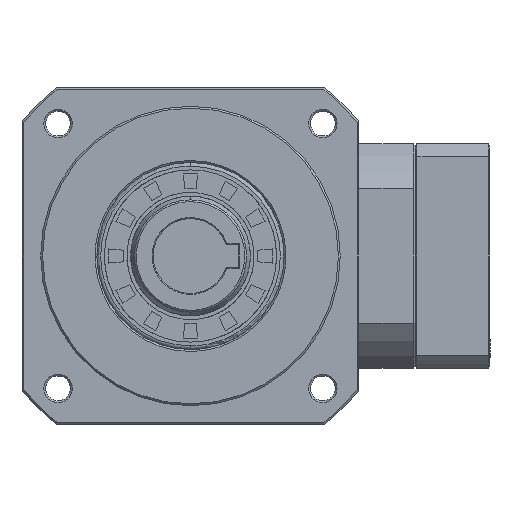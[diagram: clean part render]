
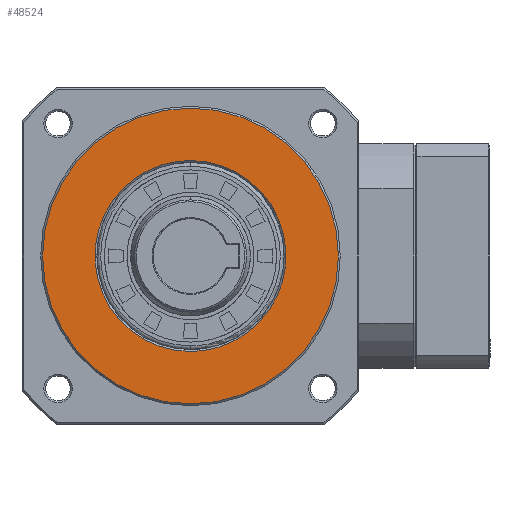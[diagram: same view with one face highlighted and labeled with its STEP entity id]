
A CAD part, left-side view. The second image highlights one B-rep face of the part: STEP entity #48524.
In plain terms, the highlighted planar face has unit normal (1, 0, 0).
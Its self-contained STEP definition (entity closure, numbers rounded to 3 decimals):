
#2378 = VERTEX_POINT ( 'NONE', #82325 ) ;
#3166 = CARTESIAN_POINT ( 'NONE',  ( 0., -6.612, -24.684 ) ) ;
#4488 = ORIENTED_EDGE ( 'NONE', *, *, #74390, .T. ) ;
#5657 = CARTESIAN_POINT ( 'NONE',  ( 0., 12.779, 22.13 ) ) ;
#5964 = CARTESIAN_POINT ( 'NONE',  ( 0., 11.3, 22.92 ) ) ;
#6265 = CARTESIAN_POINT ( 'NONE',  ( 0., 8.216, 24.198 ) ) ;
#6555 = CARTESIAN_POINT ( 'NONE',  ( 0., 24.198, 8.216 ) ) ;
#6791 = CIRCLE ( 'NONE', #51060, 39.5 ) ;
#6860 = CARTESIAN_POINT ( 'NONE',  ( 0., 0., 25.5 ) ) ;
#7554 = DIRECTION ( 'NONE',  ( 1., 0., 0. ) ) ;
#9034 = CARTESIAN_POINT ( 'NONE',  ( 0., -22.13, 12.779 ) ) ;
#10297 = CARTESIAN_POINT ( 'NONE',  ( 0., -20.275, 15.555 ) ) ;
#10496 = DIRECTION ( 'NONE',  ( 1., 0., 0. ) ) ;
#11295 = CARTESIAN_POINT ( 'NONE',  ( 0., 15.555, -20.275 ) ) ;
#13111 = CARTESIAN_POINT ( 'NONE',  ( 0., 20.275, 15.555 ) ) ;
#13402 = CARTESIAN_POINT ( 'NONE',  ( 0., 25.5, 1.669 ) ) ;
#16159 = CARTESIAN_POINT ( 'NONE',  ( 0., -24.684, -6.612 ) ) ;
#16444 = CARTESIAN_POINT ( 'NONE',  ( 0., -24.684, 6.612 ) ) ;
#17393 = CARTESIAN_POINT ( 'NONE',  ( 0., -25.5, -1.669 ) ) ;
#18395 = CARTESIAN_POINT ( 'NONE',  ( 0., 1.669, -25.5 ) ) ;
#18617 = VERTEX_POINT ( 'NONE', #58382 ) ;
#19589 = AXIS2_PLACEMENT_3D ( 'NONE', #56819, #7554, #48781 ) ;
#20190 = CARTESIAN_POINT ( 'NONE',  ( 0., 22.92, -11.3 ) ) ;
#23545 = CARTESIAN_POINT ( 'NONE',  ( 0., -20.275, -15.555 ) ) ;
#23852 = CARTESIAN_POINT ( 'NONE',  ( 0., -11.3, 22.92 ) ) ;
#24459 = CARTESIAN_POINT ( 'NONE',  ( 0., -24.198, -8.216 ) ) ;
#27882 = CARTESIAN_POINT ( 'NONE',  ( 0., 22.13, 12.779 ) ) ;
#30629 = CARTESIAN_POINT ( 'NONE',  ( 0., -12.779, 22.13 ) ) ;
#31249 = CARTESIAN_POINT ( 'NONE',  ( 0., 0., 25.5 ) ) ;
#31563 = CARTESIAN_POINT ( 'NONE',  ( 0., -1.669, 25.5 ) ) ;
#33176 = CARTESIAN_POINT ( 'NONE',  ( 0., 19.211, -16.851 ) ) ;
#33798 = CARTESIAN_POINT ( 'NONE',  ( 0., 1.669, 25.5 ) ) ;
#33825 = EDGE_LOOP ( 'NONE', ( #45915, #4488 ) ) ;
#37186 = CARTESIAN_POINT ( 'NONE',  ( 0., -24.198, 8.216 ) ) ;
#37489 = CARTESIAN_POINT ( 'NONE',  ( 0., -22.13, -12.779 ) ) ;
#38160 = CARTESIAN_POINT ( 'NONE',  ( 0., 6.612, -24.684 ) ) ;
#38416 = CARTESIAN_POINT ( 'NONE',  ( 0., -15.555, 20.275 ) ) ;
#38919 = DIRECTION ( 'NONE',  ( 0., 0., -1. ) ) ;
#41010 = DIRECTION ( 'NONE',  ( 0., 0., -1. ) ) ;
#41562 = CARTESIAN_POINT ( 'NONE',  ( 0., 24.684, 6.612 ) ) ;
#41938 = PLANE ( 'NONE',  #19589 ) ;
#42166 = CARTESIAN_POINT ( 'NONE',  ( 0., 15.555, 20.275 ) ) ;
#42388 = VERTEX_POINT ( 'NONE', #42900 ) ;
#42900 = CARTESIAN_POINT ( 'NONE',  ( 0., 0., -39.5 ) ) ;
#44327 = CARTESIAN_POINT ( 'NONE',  ( 0., -11.3, -22.92 ) ) ;
#44642 = CARTESIAN_POINT ( 'NONE',  ( 0., -16.851, 19.211 ) ) ;
#44942 = CARTESIAN_POINT ( 'NONE',  ( 0., -15.555, -20.275 ) ) ;
#45249 = CARTESIAN_POINT ( 'NONE',  ( 0., -8.216, -24.198 ) ) ;
#45563 = CARTESIAN_POINT ( 'NONE',  ( 0., -12.779, -22.13 ) ) ;
#45915 = ORIENTED_EDGE ( 'NONE', *, *, #89020, .T. ) ;
#46576 = CARTESIAN_POINT ( 'NONE',  ( 0., 11.3, -22.92 ) ) ;
#46639 = FACE_OUTER_BOUND ( 'NONE', #33825, .T. ) ;
#48172 = CARTESIAN_POINT ( 'NONE',  ( 0., 0., 0. ) ) ;
#48524 = ADVANCED_FACE ( 'NONE', ( #59868, #46639 ), #41938, .T. ) ;
#48781 = DIRECTION ( 'NONE',  ( 0., 0., -1. ) ) ;
#49691 = AXIS2_PLACEMENT_3D ( 'NONE', #52908, #10496, #38919 ) ;
#51060 = AXIS2_PLACEMENT_3D ( 'NONE', #48172, #70099, #41010 ) ;
#52054 = EDGE_CURVE ( 'NONE', #86698, #2378, #63491, .T. ) ;
#52088 = CARTESIAN_POINT ( 'NONE',  ( 0., -22.92, -11.3 ) ) ;
#52715 = CARTESIAN_POINT ( 'NONE',  ( 0., -3.338, -25.336 ) ) ;
#52908 = CARTESIAN_POINT ( 'NONE',  ( 0., 0., 0. ) ) ;
#53073 = CARTESIAN_POINT ( 'NONE',  ( 0., 0., -25.5 ) ) ;
#53713 = CARTESIAN_POINT ( 'NONE',  ( 0., 12.779, -22.13 ) ) ;
#55539 = CARTESIAN_POINT ( 'NONE',  ( 0., 24.198, -8.216 ) ) ;
#55838 = CARTESIAN_POINT ( 'NONE',  ( 0., 24.684, -6.612 ) ) ;
#56428 = CARTESIAN_POINT ( 'NONE',  ( 0., 25.5, -1.669 ) ) ;
#56819 = CARTESIAN_POINT ( 'NONE',  ( 0., -39.974, 39.974 ) ) ;
#57530 = EDGE_LOOP ( 'NONE', ( #59268, #58009 ) ) ;
#58009 = ORIENTED_EDGE ( 'NONE', *, *, #52054, .F. ) ;
#58382 = CARTESIAN_POINT ( 'NONE',  ( 0., 0., 39.5 ) ) ;
#58586 = CARTESIAN_POINT ( 'NONE',  ( 0., -8.216, 24.198 ) ) ;
#58893 = CARTESIAN_POINT ( 'NONE',  ( 0., -22.92, 11.3 ) ) ;
#59268 = ORIENTED_EDGE ( 'NONE', *, *, #61487, .F. ) ;
#59508 = CARTESIAN_POINT ( 'NONE',  ( 0., -19.211, 16.851 ) ) ;
#59868 = FACE_BOUND ( 'NONE', #57530, .T. ) ;
#60800 = CARTESIAN_POINT ( 'NONE',  ( 0., 16.851, -19.211 ) ) ;
#61119 = CARTESIAN_POINT ( 'NONE',  ( 0., 8.216, -24.198 ) ) ;
#61487 = EDGE_CURVE ( 'NONE', #2378, #86698, #83633, .T. ) ;
#62952 = CARTESIAN_POINT ( 'NONE',  ( 0., 22.92, 11.3 ) ) ;
#63491 = B_SPLINE_CURVE_WITH_KNOTS ( 'NONE', 3,
 ( #80617, #18395, #68842, #38160, #61119, #46576, #53713, #11295, #60800, #33176, #67954, #75039, #20190, #55539, #55838, #69740, #56428, #13402, #77469, #41562, #6555, #62952, #27882, #13111, #90487, #76587, #42166, #5657, #5964, #6265, #91676, #70039, #33798, #6860 ),
 .UNSPECIFIED., .F., .F.,
 ( 4, 2, 2, 2, 2, 2, 2, 2, 2, 2, 2, 2, 2, 2, 2, 2, 4 ),
 ( 0.5, 0.531, 0.563, 0.594, 0.625, 0.656, 0.688, 0.719, 0.75, 0.781, 0.813, 0.844, 0.875, 0.906, 0.938, 0.969, 1. ),
 .UNSPECIFIED. ) ;
#66005 = CARTESIAN_POINT ( 'NONE',  ( 0., -25.5, 1.669 ) ) ;
#66308 = CARTESIAN_POINT ( 'NONE',  ( 0., -3.338, 25.336 ) ) ;
#66933 = CARTESIAN_POINT ( 'NONE',  ( 0., -1.669, -25.5 ) ) ;
#67954 = CARTESIAN_POINT ( 'NONE',  ( 0., 20.275, -15.555 ) ) ;
#68842 = CARTESIAN_POINT ( 'NONE',  ( 0., 3.338, -25.336 ) ) ;
#69740 = CARTESIAN_POINT ( 'NONE',  ( 0., 25.336, -3.338 ) ) ;
#70039 = CARTESIAN_POINT ( 'NONE',  ( 0., 3.338, 25.336 ) ) ;
#70099 = DIRECTION ( 'NONE',  ( 1., 0., 0. ) ) ;
#72617 = CIRCLE ( 'NONE', #49691, 39.5 ) ;
#74390 = EDGE_CURVE ( 'NONE', #18617, #42388, #72617, .T. ) ;
#75039 = CARTESIAN_POINT ( 'NONE',  ( 0., 22.13, -12.779 ) ) ;
#76587 = CARTESIAN_POINT ( 'NONE',  ( 0., 16.851, 19.211 ) ) ;
#77469 = CARTESIAN_POINT ( 'NONE',  ( 0., 25.336, 3.338 ) ) ;
#79944 = CARTESIAN_POINT ( 'NONE',  ( 0., -16.851, -19.211 ) ) ;
#80617 = CARTESIAN_POINT ( 'NONE',  ( 0., 0., -25.5 ) ) ;
#82325 = CARTESIAN_POINT ( 'NONE',  ( 0., 0., 25.5 ) ) ;
#83633 = B_SPLINE_CURVE_WITH_KNOTS ( 'NONE', 3,
 ( #31249, #31563, #66308, #87656, #58586, #23852, #30629, #38416, #44642, #59508, #10297, #9034, #58893, #37186, #16444, #87348, #66005, #17393, #87969, #16159, #24459, #52088, #37489, #23545, #86733, #79944, #44942, #45563, #44327, #45249, #3166, #52715, #66933, #87041 ),
 .UNSPECIFIED., .F., .F.,
 ( 4, 2, 2, 2, 2, 2, 2, 2, 2, 2, 2, 2, 2, 2, 2, 2, 4 ),
 ( 0., 0.031, 0.063, 0.094, 0.125, 0.156, 0.188, 0.219, 0.25, 0.281, 0.313, 0.344, 0.375, 0.406, 0.438, 0.469, 0.5 ),
 .UNSPECIFIED. ) ;
#86698 = VERTEX_POINT ( 'NONE', #53073 ) ;
#86733 = CARTESIAN_POINT ( 'NONE',  ( 0., -19.211, -16.851 ) ) ;
#87041 = CARTESIAN_POINT ( 'NONE',  ( 0., 0., -25.5 ) ) ;
#87348 = CARTESIAN_POINT ( 'NONE',  ( 0., -25.336, 3.338 ) ) ;
#87656 = CARTESIAN_POINT ( 'NONE',  ( 0., -6.612, 24.684 ) ) ;
#87969 = CARTESIAN_POINT ( 'NONE',  ( 0., -25.336, -3.338 ) ) ;
#89020 = EDGE_CURVE ( 'NONE', #42388, #18617, #6791, .T. ) ;
#90487 = CARTESIAN_POINT ( 'NONE',  ( 0., 19.211, 16.851 ) ) ;
#91676 = CARTESIAN_POINT ( 'NONE',  ( 0., 6.612, 24.684 ) ) ;
